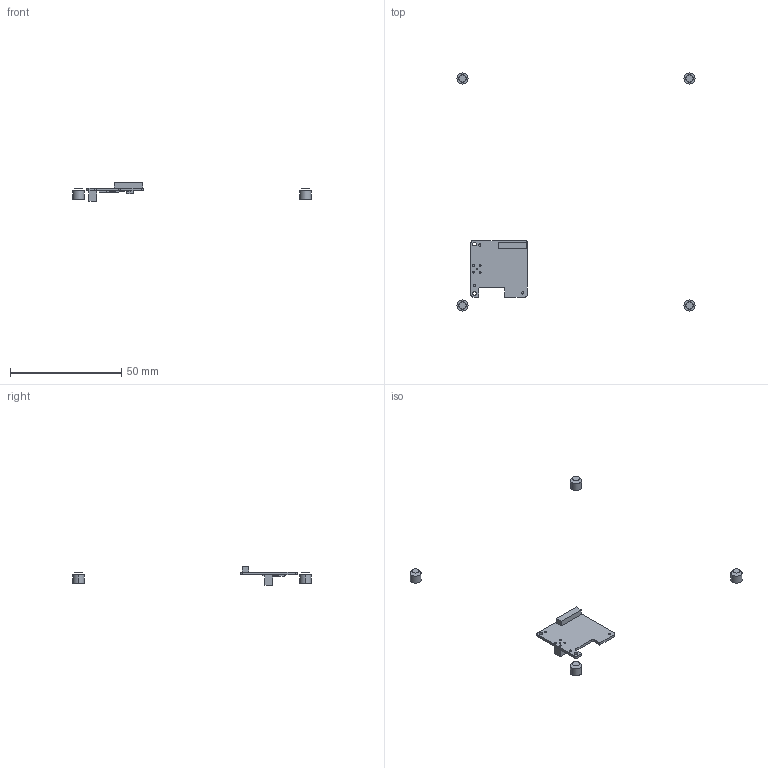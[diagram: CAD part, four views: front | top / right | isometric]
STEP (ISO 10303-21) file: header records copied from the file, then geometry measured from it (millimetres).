
FILE_DESCRIPTION(/* description */ ('PCB Design'),/* implementation_level */ '2;1');
FILE_NAME(/* name */ 'Mn_Analog_in_R1',/* time_stamp */ '2020-04-15T14:44:00+03:00',/* author */ ('Roy K'),/* organization */ (''),/* preprocessor_version */ 'ST-DEVELOPER v15',/* originating_system */ 'allegro_16.6-2015S105',/* authorisation */ '');
FILE_SCHEMA (('AUTOMOTIVE_DESIGN'));
Length unit declared in the file: millimetre
Products named in the file (15): MN_ANALOG_IN_R1-ODB; BOARD; COMPONENTS; MMCX7_RA_TH; C0402; R0402; R0201; C0201_S; C0201; X32_3P2X2P5; CP_32_12; SOT23-5; MU98K130; DF40HC-50DS-0P4V; FID40
Assembly tree (50 placements, depth 3):
  MN_ANALOG_IN_R1-ODB
    BOARD
    COMPONENTS
      MMCX7_RA_TH
      C0402  x5
      R0402  x3
      R0201  x13
      C0201_S  x10
      C0201  x2
      X32_3P2X2P5
      CP_32_12
      SOT23-5
      MU98K130  x4
      DF40HC-50DS-0P4V
      FID40  x6
Bounding box: 107.21 x 107.21 x 8.49 mm (x, y, z)
Surface area: 2214.5 mm2 (no closed solid volume)
Topology: 0 solids, 53 shells, 314 faces, 684 edges, 416 vertices
Faces by surface type: plane 266, cylinder 48
Entity records: 3407 total; most frequent: ORIENTED_EDGE 444, DIRECTION 338, CARTESIAN_POINT 317, AXIS2_PLACEMENT_3D 254, EDGE_CURVE 243, VECTOR 191, LINE 191, VERTEX_POINT 190
